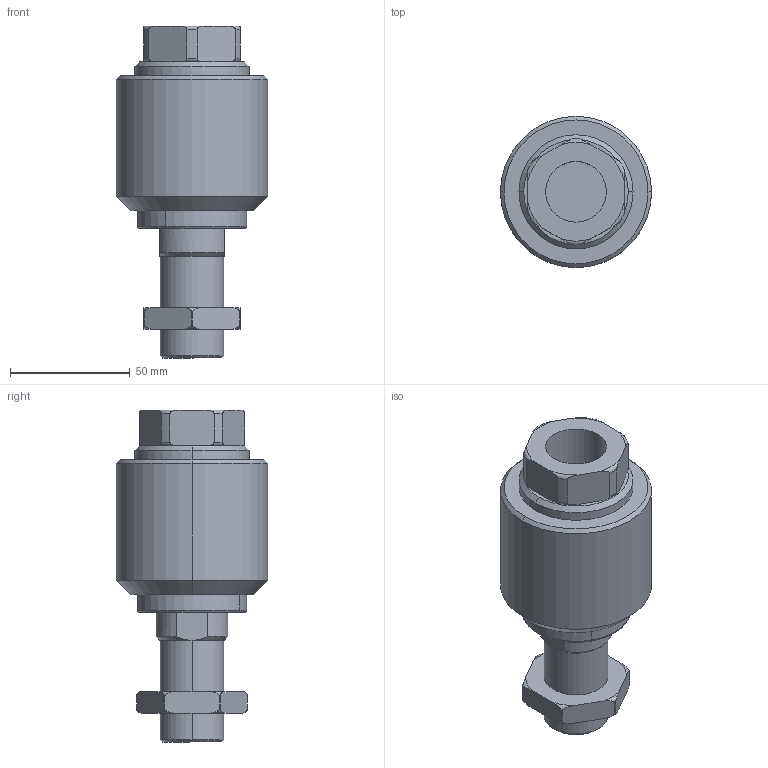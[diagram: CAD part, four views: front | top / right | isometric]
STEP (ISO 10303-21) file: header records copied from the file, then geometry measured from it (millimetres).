
FILE_DESCRIPTION(('CATIA V5 STEP Exchange'),'2;1');
FILE_NAME('D:\stp file for catalog\BAST-FC\FC 27.stp','2018-06-12T05:56:54+00:00',('none'),('none'),'CATIA Version 5-6 Release 2016','CATIA V5 STEP AP203','none');
FILE_SCHEMA(('CONFIG_CONTROL_DESIGN'));
Length unit declared in the file: millimetre
Products named in the file (1): FC 27
Bounding box: 63 x 63 x 138.4 mm (x, y, z)
Volume: 230007 mm3; surface area: 32404 mm2
Topology: 1 solids, 2 shells, 93 faces, 234 edges, 152 vertices
Faces by surface type: cylinder 30, torus 26, plane 25, cone 12
Entity records: 3361 total; most frequent: CARTESIAN_POINT 1370, ORIENTED_EDGE 468, DIRECTION 278, EDGE_CURVE 234, AXIS2_PLACEMENT_3D 152, VERTEX_POINT 152, CIRCLE 102, EDGE_LOOP 102
